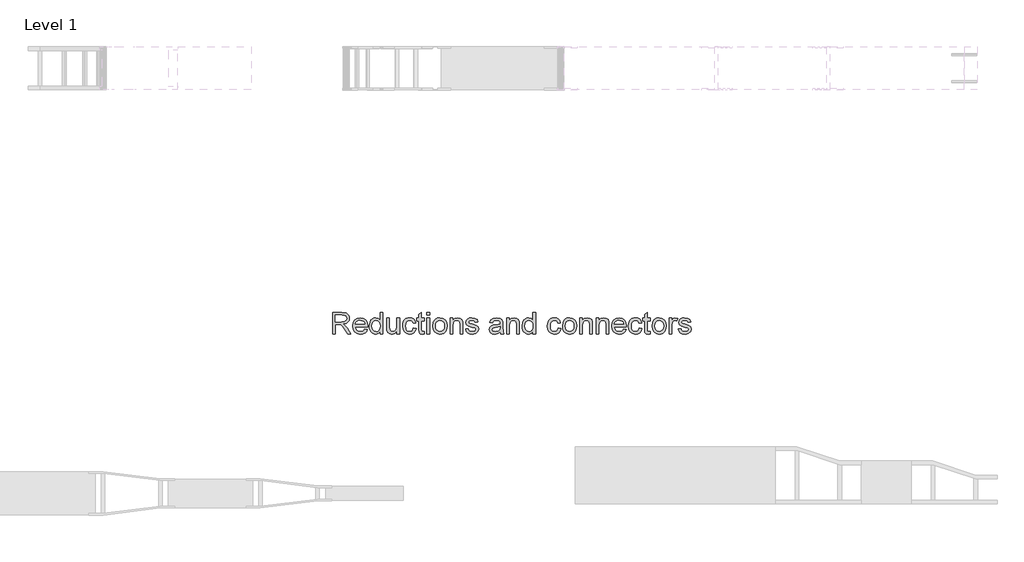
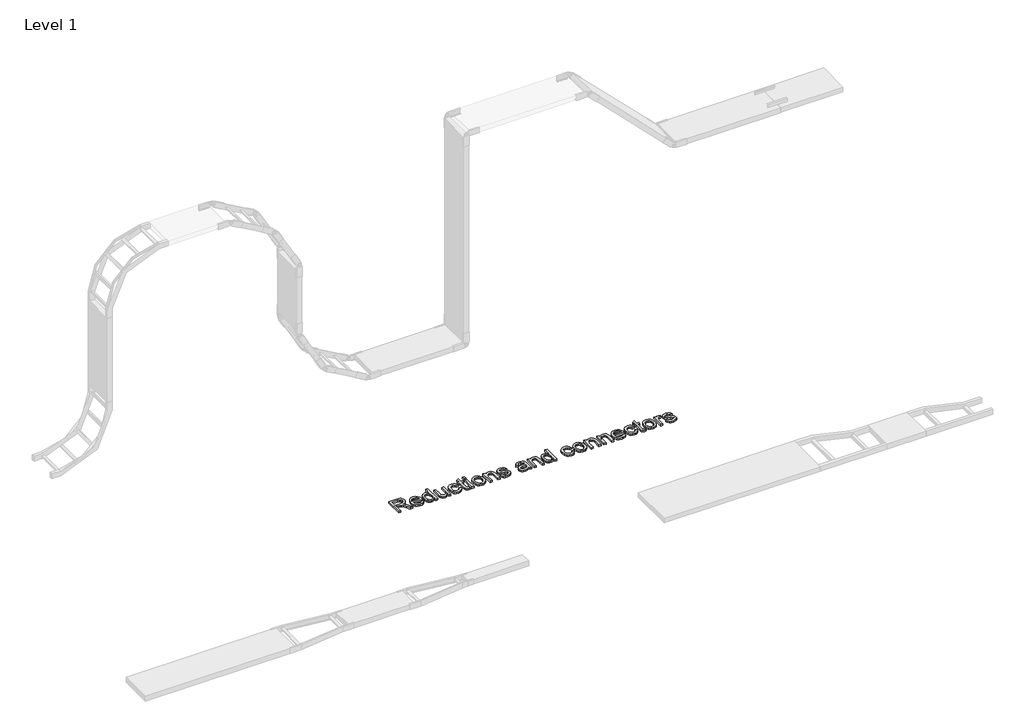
# One storey, part 45 of 106: 1 proxy.
"""IFC4 building model written with IfcOpenShell, lengths in millimetres."""

from ifc_helpers import new_model, si_unit, origin, origin_with_axes, place, context, project, spatial, polyline, outline, extrude, element, save

model = new_model("IFC4")

# Units and contexts
model_context = context("Model", 3, world=origin())
ifc_project = project(units=[si_unit("LENGTHUNIT", "METRE", prefix="MILLI")], contexts=[model_context])

# Site, building, storey
site = spatial("IfcSite", under=ifc_project)
building = spatial("IfcBuilding", under=site)
storey = spatial("IfcBuildingStorey", under=building, Name="Level 1", Elevation=0.0)

# Proxy
placement = place(None, origin())
element("IfcBuildingElementProxy", 1, Name="150mm Arial 2", ObjectType="150mm Arial 2", at=placement, inside=storey, context=model_context, shape_type="SweptSolid", body=[
    extrude(outline(polyline([(54568.5420892, 22747.8476348), (54568.5420892, 22898.5321), (54633.4732613, 22898.5321), (54663.6211908, 22894.467004), (54672.9010141, 22888.8384094), (54680.1023042, 22880.0828179), (54684.7238218, 22869.2257006), (54686.2643276, 22857.2925283), (54683.7121463, 22842.4484898), (54676.0556023, 22830.1428371), (54663.0647693, 22821.1205312), (54644.5097212, 22816.1265331), (54655.2150872, 22808.0699174), (54670.48219, 22788.6825362), (54695.6085303, 22747.8476348), (54673.7195516, 22747.8476348), (54654.1114412, 22779.0808162), (54639.9479844, 22799.7557843), (54629.9967765, 22809.5230513), (54621.0388499, 22813.1099007), (54610.1127546, 22813.7720883), (54587.3776473, 22813.7720883), (54587.3776473, 22747.8476348), (54568.5420892, 22747.8476348)]), holes=[polyline([(54587.3776473, 22832.6076465), (54629.536924, 22832.6076465), (54651.0396266, 22835.2747909), (54663.2533088, 22843.8096532), (54667.4287695, 22856.5935526), (54665.4376082, 22865.7814054), (54659.4641243, 22873.1850305), (54649.186421, 22878.068664), (54634.2826017, 22879.6965419), (54587.3776473, 22879.6965419), (54587.3776473, 22832.6076465)])]), origin_with_axes(), (0.0, 0.0, 1.0), 15.0),
    extrude(outline(polyline([(54794.3480578, 22780.8098615), (54812.815734, 22778.4554168), (54806.1616684, 22764.5402803), (54795.5436743, 22754.1384169), (54781.200875, 22747.6544967), (54763.3723938, 22745.49319), (54741.2718829, 22749.2225937), (54724.2665377, 22760.4108049), (54713.4232159, 22778.3312566), (54709.8087753, 22802.2573819), (54713.4600041, 22826.988249), (54724.4136905, 22845.4835163), (54741.1891095, 22857.0166168), (54762.305536, 22860.8609837), (54782.7643735, 22857.0258139), (54799.1121296, 22845.5203045), (54809.8312913, 22827.0618254), (54813.4043452, 22802.3677465), (54813.2939806, 22797.2909749), (54728.6443335, 22797.2909749), (54731.9046876, 22783.1918975), (54739.4784582, 22772.8268223), (54750.409152, 22766.4532667), (54763.7402758, 22764.3287482), (54782.207952, 22768.2650855), (54794.3480578, 22780.8098615)]), holes=[polyline([(54728.6443335, 22816.1265331), (54794.568787, 22816.1265331), (54792.0212042, 22826.0777411), (54787.0272061, 22833.1962577), (54776.0459285, 22839.8181336), (54762.2319596, 22842.0254255), (54749.5354323, 22840.2641905), (54739.0369998, 22834.9804853), (54731.7391407, 22826.7445272), (54728.6443335, 22816.1265331)])]), origin_with_axes(), (0.0, 0.0, 1.0), 15.0),
    extrude(outline(polyline([(54900.5188016, 22747.8476348), (54900.5188016, 22765.6163351), (54888.056799, 22750.5239763), (54870.8307246, 22745.49319), (54858.6538306, 22747.3142059), (54847.5070061, 22752.7772535), (54838.0708329, 22761.5006553), (54831.0258927, 22773.1027337), (54826.6388999, 22787.1144392), (54825.176569, 22803.0667223), (54830.5660402, 22833.0491049), (54837.2982807, 22844.9408904), (54846.7160598, 22853.6872848), (54858.1066061, 22859.067559), (54870.7571482, 22860.8609837), (54888.1211784, 22855.7290299), (54900.5188016, 22842.3933075), (54900.5188016, 22898.5321), (54919.3543598, 22898.5321), (54919.3543598, 22747.8476348), (54900.5188016, 22747.8476348)]), holes=[polyline([(54844.0121271, 22803.1402987), (54846.1366457, 22786.1027638), (54852.5102012, 22773.9856505), (54861.7716305, 22766.7429738), (54872.55977, 22764.3287482), (54883.343311, 22766.6326092), (54892.3702154, 22773.5441921), (54898.4816551, 22785.1922558), (54900.5188016, 22801.7055589), (54898.4448669, 22819.7593678), (54892.2230626, 22832.2765527), (54882.9662319, 22839.5882073), (54871.7872178, 22842.0254255), (54860.8887137, 22839.6847764), (54851.9583782, 22832.6628288), (54845.9986899, 22820.6008979), (54844.0121271, 22803.1402987)])]), origin_with_axes(), (0.0, 0.0, 1.0), 15.0),
    extrude(outline(polyline([(55018.2410401, 22747.8476348), (55018.2410401, 22766.8671339), (55003.4889721, 22750.836676), (54984.2487437, 22745.49319), (54966.5352256, 22749.2455864), (54954.3215434, 22758.6633654), (54948.711343, 22772.5325167), (54947.607697, 22790.0436996), (54947.607697, 22858.5065389), (54966.4432551, 22858.5065389), (54966.4432551, 22798.9096557), (54967.5836893, 22779.7062156), (54975.0332997, 22768.4306324), (54989.0679978, 22764.3287482), (55004.7949531, 22768.5226029), (55015.1876195, 22779.9453389), (55018.2410401, 22800.9330067), (55018.2410401, 22858.5065389), (55037.0765982, 22858.5065389), (55037.0765982, 22747.8476348), (55018.2410401, 22747.8476348)])), origin_with_axes(), (0.0, 0.0, 1.0), 15.0),
    extrude(outline(polyline([(55133.6088338, 22787.8731959), (55152.4443919, 22785.5187511), (55147.1928764, 22768.7663247), (55137.3244419, 22756.1065856), (55123.7679904, 22748.1465389), (55107.4524239, 22745.49319), (55087.4166507, 22749.1950026), (55071.7494763, 22760.3004403), (55061.6373199, 22778.3220596), (55058.2666011, 22802.7724167), (55059.7059394, 22819.5340401), (55064.0239544, 22834.0607803), (55071.2896238, 22845.7916175), (55081.5719255, 22854.1655314), (55093.8729797, 22859.1871206), (55107.1949065, 22860.8609837), (55123.1104013, 22858.5617212), (55135.8345198, 22851.6639338), (55144.9625918, 22840.5355035), (55150.0899471, 22825.5443122), (55131.254389, 22823.1898674), (55122.5171916, 22837.2981419), (55107.3420593, 22842.0254255), (55095.1697638, 22839.6985719), (55085.5082629, 22832.7180111), (55079.2036852, 22820.7066639), (55077.1021593, 22803.2874515), (55079.1576999, 22785.6337142), (55085.3243219, 22773.5809803), (55094.8110788, 22766.6418062), (55106.8270245, 22764.3287482), (55116.5804959, 22765.772685), (55124.5773308, 22770.1044955), (55130.3944648, 22777.4345442), (55133.6088338, 22787.8731959)])), origin_with_axes(), (0.0, 0.0, 1.0), 15.0),
    extrude(outline(polyline([(55208.9510664, 22763.556196), (55211.3055111, 22747.2958118), (55197.2156307, 22745.49319), (55181.4334931, 22748.620187), (55173.5608184, 22756.8239555), (55171.2799501, 22778.1978994), (55171.2799501, 22839.6709808), (55157.1532814, 22839.6709808), (55157.1532814, 22858.5065389), (55171.2799501, 22858.5065389), (55171.2799501, 22885.3987128), (55190.1155082, 22896.4719608), (55190.1155082, 22858.5065389), (55208.9510664, 22858.5065389), (55208.9510664, 22839.6709808), (55190.1155082, 22839.6709808), (55190.1155082, 22778.7497224), (55191.1087896, 22769.0376377), (55194.3277571, 22765.597941), (55200.7472979, 22764.3287482), (55208.9510664, 22763.556196)])), origin_with_axes(), (0.0, 0.0, 1.0), 15.0),
    extrude(outline(polyline([(55227.7866245, 22879.6965419), (55227.7866245, 22898.5321), (55246.6221827, 22898.5321), (55246.6221827, 22879.6965419), (55227.7866245, 22879.6965419)])), origin_with_axes(), (0.0, 0.0, 1.0), 15.0),
    extrude(outline(polyline([(55227.7866245, 22747.8476348), (55227.7866245, 22858.5065389), (55246.6221827, 22858.5065389), (55246.6221827, 22747.8476348), (55227.7866245, 22747.8476348)])), origin_with_axes(), (0.0, 0.0, 1.0), 15.0),
    extrude(outline(polyline([(55270.1666304, 22803.1770869), (55274.2409235, 22829.8577286), (55286.4638027, 22848.6105133), (55301.5653587, 22857.7983661), (55319.6467587, 22860.8609837), (55339.4342115, 22857.13158), (55355.2393417, 22845.9433688), (55365.5998184, 22828.179267), (55369.0533107, 22804.7221912), (55367.5266004, 22785.693495), (55362.9464695, 22771.2081415), (55355.4462754, 22760.3602211), (55345.1593751, 22752.2438246), (55332.9410943, 22747.1808487), (55319.6467587, 22745.49319), (55299.6201826, 22749.2087982), (55283.8334465, 22760.3556226), (55273.5833344, 22778.492205), (55270.1666304, 22803.1770869)]), holes=[polyline([(55289.0021885, 22803.2138751), (55291.1818893, 22786.1671431), (55297.7209918, 22774.0224387), (55307.5618352, 22766.7521708), (55319.6467587, 22764.3287482), (55331.6765, 22766.7659664), (55341.4989492, 22774.077621), (55348.0380517, 22786.3832738), (55350.2177525, 22803.8024862), (55348.0242561, 22820.3525775), (55341.4437669, 22832.331735), (55331.6075221, 22839.6020029), (55319.6467587, 22842.0254255), (55307.5618352, 22839.6112), (55297.7209918, 22832.3685232), (55291.1818893, 22820.25141), (55289.0021885, 22803.2138751)])]), origin_with_axes(), (0.0, 0.0, 1.0), 15.0),
    extrude(outline(polyline([(55390.2433136, 22747.8476348), (55390.2433136, 22858.5065389), (55409.0788717, 22858.5065389), (55409.0788717, 22843.0554951), (55423.4814519, 22856.4096116), (55443.1447445, 22860.8609837), (55460.931839, 22857.2741342), (55473.0719448, 22847.8563552), (55478.7189334, 22834.0055981), (55479.7122148, 22815.7954393), (55479.7122148, 22747.8476348), (55460.8766567, 22747.8476348), (55460.8766567, 22813.2570535), (55458.7061529, 22829.9221079), (55451.0358133, 22838.7328817), (55438.1047612, 22842.0254255), (55427.0728998, 22840.1768185), (55417.6689163, 22834.6309974), (55411.2263829, 22823.9164343), (55409.0788717, 22806.5616012), (55409.0788717, 22747.8476348), (55390.2433136, 22747.8476348)])), origin_with_axes(), (0.0, 0.0, 1.0), 15.0),
    extrude(outline(polyline([(55498.547773, 22780.8098615), (55517.3833311, 22783.1643063), (55520.3539782, 22775.1076906), (55526.1021344, 22769.1847905), (55546.0781267, 22764.3287482), (55565.2815669, 22768.7801203), (55571.5355608, 22779.227969), (55569.9628653, 22784.028829), (55565.2447787, 22787.6892549), (55545.8573975, 22793.060332), (55517.4936957, 22802.275776), (55505.1144666, 22813.0363243), (55500.9022177, 22828.2298507), (55504.2867321, 22842.2645488), (55513.5205702, 22852.988309), (55525.4951291, 22858.5617212), (55541.700331, 22860.8609837), (55564.6193793, 22857.1637696), (55579.1875063, 22847.1573794), (55585.6622294, 22830.2532017), (55566.8266713, 22827.8987569), (55559.7449429, 22838.2914233), (55543.171859, 22842.0254255), (55525.1456412, 22838.4569702), (55519.7377759, 22830.1428371), (55521.9818561, 22824.6613954), (55529.0084022, 22820.5043288), (55545.2319982, 22816.4944151), (55572.8783301, 22807.628459), (55585.7174117, 22797.5852805), (55590.371119, 22781.2145317), (55584.9080713, 22763.188314), (55569.1443278, 22750.1101091), (55545.8206093, 22745.49319), (55526.8287013, 22747.7188761), (55512.9687472, 22754.3959343), (55503.716515, 22765.4507882), (55498.547773, 22780.8098615)])), origin_with_axes(), (0.0, 0.0, 1.0), 15.0),
    extrude(outline(polyline([(55741.0555842, 22761.9743034), (55722.7902431, 22749.2087982), (55702.6119157, 22745.49319), (55686.8711648, 22747.7280731), (55675.2598894, 22754.4327225), (55668.099986, 22764.6138567), (55665.7133516, 22777.2781944), (55669.3185951, 22792.1774152), (55678.7915565, 22802.9931459), (55691.980126, 22809.1735634), (55708.2772984, 22812.0062547), (55740.9452196, 22818.4809779), (55741.0555842, 22822.6748326), (55739.7588002, 22831.0809362), (55735.8684481, 22836.580772), (55727.1680389, 22840.6642622), (55715.0463271, 22842.0254255), (55695.9900398, 22838.4017879), (55686.9033545, 22825.5443122), (55668.0677963, 22827.8987569), (55676.2163825, 22846.2928567), (55692.6239195, 22857.0717991), (55717.4743483, 22860.8609837), (55740.3014261, 22857.5132575), (55753.19569, 22849.107154), (55758.9714374, 22836.3232546), (55759.8911423, 22819.8421412), (55759.8911423, 22796.4080581), (55760.8476355, 22763.6849547), (55764.6000319, 22747.8476348), (55745.7644737, 22747.8476348), (55741.0555842, 22761.9743034)]), holes=[polyline([(55741.0555842, 22799.6454197), (55710.6685314, 22793.8696724), (55694.4633295, 22790.8162518), (55687.1240837, 22785.8498449), (55684.5489097, 22778.6025696), (55690.1591102, 22768.4122383), (55706.6218294, 22764.3287482), (55725.6781168, 22768.8353026), (55737.9653754, 22779.7430038), (55740.9452196, 22794.3111308), (55741.0555842, 22799.6454197)])]), origin_with_axes(), (0.0, 0.0, 1.0), 15.0),
    extrude(outline(polyline([(55785.7900348, 22747.8476348), (55785.7900348, 22858.5065389), (55804.625593, 22858.5065389), (55804.625593, 22843.0554951), (55819.0281731, 22856.4096116), (55838.6914657, 22860.8609837), (55856.4785602, 22857.2741342), (55868.618666, 22847.8563552), (55874.2656546, 22834.0055981), (55875.258936, 22815.7954393), (55875.258936, 22747.8476348), (55856.4233779, 22747.8476348), (55856.4233779, 22813.2570535), (55854.2528741, 22829.9221079), (55846.5825345, 22838.7328817), (55833.6514824, 22842.0254255), (55822.619621, 22840.1768185), (55813.2156375, 22834.6309974), (55806.7731041, 22823.9164343), (55804.625593, 22806.5616012), (55804.625593, 22747.8476348), (55785.7900348, 22747.8476348)])), origin_with_axes(), (0.0, 0.0, 1.0), 15.0),
    extrude(outline(polyline([(55969.4367268, 22747.8476348), (55969.4367268, 22765.6163351), (55956.9747242, 22750.5239763), (55939.7486498, 22745.49319), (55927.5717557, 22747.3142059), (55916.4249313, 22752.7772535), (55906.9887581, 22761.5006553), (55899.9438179, 22773.1027337), (55895.5568251, 22787.1144392), (55894.0944942, 22803.0667223), (55899.4839654, 22833.0491049), (55906.2162059, 22844.9408904), (55915.633985, 22853.6872848), (55927.0245313, 22859.067559), (55939.6750734, 22860.8609837), (55957.0391036, 22855.7290299), (55969.4367268, 22842.3933075), (55969.4367268, 22898.5321), (55988.2722849, 22898.5321), (55988.2722849, 22747.8476348), (55969.4367268, 22747.8476348)]), holes=[polyline([(55912.9300523, 22803.1402987), (55915.0545709, 22786.1027638), (55921.4281264, 22773.9856505), (55930.6895557, 22766.7429738), (55941.4776952, 22764.3287482), (55952.2612361, 22766.6326092), (55961.2881406, 22773.5441921), (55967.3995802, 22785.1922558), (55969.4367268, 22801.7055589), (55967.362792, 22819.7593678), (55961.1409878, 22832.2765527), (55951.8841571, 22839.5882073), (55940.705143, 22842.0254255), (55929.8066389, 22839.6847764), (55920.8763034, 22832.6628288), (55914.9166151, 22820.6008979), (55912.9300523, 22803.1402987)])]), origin_with_axes(), (0.0, 0.0, 1.0), 15.0),
    extrude(outline(polyline([(56146.0200845, 22787.8731959), (56164.8556426, 22785.5187511), (56159.6041272, 22768.7663247), (56149.7356926, 22756.1065856), (56136.1792411, 22748.1465389), (56119.8636746, 22745.49319), (56099.8279015, 22749.1950026), (56084.160727, 22760.3004403), (56074.0485706, 22778.3220596), (56070.6778519, 22802.7724167), (56072.1171902, 22819.5340401), (56076.4352051, 22834.0607803), (56083.7008745, 22845.7916175), (56093.9831763, 22854.1655314), (56106.2842305, 22859.1871206), (56119.6061572, 22860.8609837), (56135.521652, 22858.5617212), (56148.2457706, 22851.6639338), (56157.3738426, 22840.5355035), (56162.5011979, 22825.5443122), (56143.6656397, 22823.1898674), (56134.9284423, 22837.2981419), (56119.75331, 22842.0254255), (56107.5810145, 22839.6985719), (56097.9195136, 22832.7180111), (56091.6149359, 22820.7066639), (56089.51341, 22803.2874515), (56091.5689507, 22785.6337142), (56097.7355726, 22773.5809803), (56107.2223296, 22766.6418062), (56119.2382752, 22764.3287482), (56128.9917466, 22765.772685), (56136.9885815, 22770.1044955), (56142.8057155, 22777.4345442), (56146.0200845, 22787.8731959)])), origin_with_axes(), (0.0, 0.0, 1.0), 15.0),
    extrude(outline(polyline([(56176.6278665, 22803.1770869), (56180.7021596, 22829.8577286), (56192.9250389, 22848.6105133), (56208.0265948, 22857.7983661), (56226.1079948, 22860.8609837), (56245.8954476, 22857.13158), (56261.7005779, 22845.9433688), (56272.0610546, 22828.179267), (56275.5145468, 22804.7221912), (56273.9878365, 22785.693495), (56269.4077057, 22771.2081415), (56261.9075115, 22760.3602211), (56251.6206112, 22752.2438246), (56239.4023304, 22747.1808487), (56226.1079948, 22745.49319), (56206.0814187, 22749.2087982), (56190.2946826, 22760.3556226), (56180.0445705, 22778.492205), (56176.6278665, 22803.1770869)]), holes=[polyline([(56195.4634246, 22803.2138751), (56197.6431255, 22786.1671431), (56204.1822279, 22774.0224387), (56214.0230713, 22766.7521708), (56226.1079948, 22764.3287482), (56238.1377361, 22766.7659664), (56247.9601853, 22774.077621), (56254.4992878, 22786.3832738), (56256.6789886, 22803.8024862), (56254.4854922, 22820.3525775), (56247.905003, 22832.331735), (56238.0687582, 22839.6020029), (56226.1079948, 22842.0254255), (56214.0230713, 22839.6112), (56204.1822279, 22832.3685232), (56197.6431255, 22820.25141), (56195.4634246, 22803.2138751)])]), origin_with_axes(), (0.0, 0.0, 1.0), 15.0),
    extrude(outline(polyline([(56296.7045497, 22747.8476348), (56296.7045497, 22858.5065389), (56315.5401079, 22858.5065389), (56315.5401079, 22843.0554951), (56329.942688, 22856.4096116), (56349.6059806, 22860.8609837), (56367.3930751, 22857.2741342), (56379.5331809, 22847.8563552), (56385.1801695, 22834.0055981), (56386.1734509, 22815.7954393), (56386.1734509, 22747.8476348), (56367.3378928, 22747.8476348), (56367.3378928, 22813.2570535), (56365.167389, 22829.9221079), (56357.4970494, 22838.7328817), (56344.5659973, 22842.0254255), (56333.5341359, 22840.1768185), (56324.1301524, 22834.6309974), (56317.687619, 22823.9164343), (56315.5401079, 22806.5616012), (56315.5401079, 22747.8476348), (56296.7045497, 22747.8476348)])), origin_with_axes(), (0.0, 0.0, 1.0), 15.0),
    extrude(outline(polyline([(56412.0723434, 22747.8476348), (56412.0723434, 22858.5065389), (56430.9079015, 22858.5065389), (56430.9079015, 22843.0554951), (56445.3104817, 22856.4096116), (56464.9737743, 22860.8609837), (56482.7608688, 22857.2741342), (56494.9009746, 22847.8563552), (56500.5479632, 22834.0055981), (56501.5412446, 22815.7954393), (56501.5412446, 22747.8476348), (56482.7056865, 22747.8476348), (56482.7056865, 22813.2570535), (56480.5351827, 22829.9221079), (56472.8648431, 22838.7328817), (56459.933791, 22842.0254255), (56448.9019296, 22840.1768185), (56439.4979461, 22834.6309974), (56433.0554127, 22823.9164343), (56430.9079015, 22806.5616012), (56430.9079015, 22747.8476348), (56412.0723434, 22747.8476348)])), origin_with_axes(), (0.0, 0.0, 1.0), 15.0),
    extrude(outline(polyline([(56604.9160853, 22780.8098615), (56623.3837614, 22778.4554168), (56616.7296958, 22764.5402803), (56606.1117017, 22754.1384169), (56591.7689025, 22747.6544967), (56573.9404213, 22745.49319), (56551.8399104, 22749.2225937), (56534.8345652, 22760.4108049), (56523.9912434, 22778.3312566), (56520.3768028, 22802.2573819), (56524.0280316, 22826.988249), (56534.981718, 22845.4835163), (56551.757137, 22857.0166168), (56572.8735635, 22860.8609837), (56593.3324009, 22857.0258139), (56609.6801571, 22845.5203045), (56620.3993187, 22827.0618254), (56623.9723726, 22802.3677465), (56623.862008, 22797.2909749), (56539.2123609, 22797.2909749), (56542.4727151, 22783.1918975), (56550.0464857, 22772.8268223), (56560.9771795, 22766.4532667), (56574.3083033, 22764.3287482), (56592.7759794, 22768.2650855), (56604.9160853, 22780.8098615)]), holes=[polyline([(56539.2123609, 22816.1265331), (56605.1368145, 22816.1265331), (56602.5892316, 22826.0777411), (56597.5952336, 22833.1962577), (56586.613956, 22839.8181336), (56572.7999871, 22842.0254255), (56560.1034597, 22840.2641905), (56549.6050273, 22834.9804853), (56542.3071682, 22826.7445272), (56539.2123609, 22816.1265331)])]), origin_with_axes(), (0.0, 0.0, 1.0), 15.0),
    extrude(outline(polyline([(56713.4412738, 22787.8731959), (56732.276832, 22785.5187511), (56727.0253165, 22768.7663247), (56717.156882, 22756.1065856), (56703.6004305, 22748.1465389), (56687.284864, 22745.49319), (56667.2490908, 22749.1950026), (56651.5819164, 22760.3004403), (56641.46976, 22778.3220596), (56638.0990412, 22802.7724167), (56639.5383795, 22819.5340401), (56643.8563945, 22834.0607803), (56651.1220639, 22845.7916175), (56661.4043656, 22854.1655314), (56673.7054198, 22859.1871206), (56687.0273466, 22860.8609837), (56702.9428414, 22858.5617212), (56715.6669599, 22851.6639338), (56724.7950319, 22840.5355035), (56729.9223872, 22825.5443122), (56711.0868291, 22823.1898674), (56702.3496317, 22837.2981419), (56687.1744994, 22842.0254255), (56675.0022039, 22839.6985719), (56665.340703, 22832.7180111), (56659.0361253, 22820.7066639), (56656.9345994, 22803.2874515), (56658.99014, 22785.6337142), (56665.156762, 22773.5809803), (56674.6435189, 22766.6418062), (56686.6594646, 22764.3287482), (56696.412936, 22765.772685), (56704.4097709, 22770.1044955), (56710.2269049, 22777.4345442), (56713.4412738, 22787.8731959)])), origin_with_axes(), (0.0, 0.0, 1.0), 15.0),
    extrude(outline(polyline([(56788.7835065, 22763.556196), (56791.1379512, 22747.2958118), (56777.0480708, 22745.49319), (56761.2659332, 22748.620187), (56753.3932585, 22756.8239555), (56751.1123901, 22778.1978994), (56751.1123901, 22839.6709808), (56736.9857215, 22839.6709808), (56736.9857215, 22858.5065389), (56751.1123901, 22858.5065389), (56751.1123901, 22885.3987128), (56769.9479483, 22896.4719608), (56769.9479483, 22858.5065389), (56788.7835065, 22858.5065389), (56788.7835065, 22839.6709808), (56769.9479483, 22839.6709808), (56769.9479483, 22778.7497224), (56770.9412297, 22769.0376377), (56774.1601971, 22765.597941), (56780.579738, 22764.3287482), (56788.7835065, 22763.556196)])), origin_with_axes(), (0.0, 0.0, 1.0), 15.0),
    extrude(outline(polyline([(56802.9101751, 22803.1770869), (56806.9844682, 22829.8577286), (56819.2073475, 22848.6105133), (56834.3089034, 22857.7983661), (56852.3903034, 22860.8609837), (56872.1777562, 22857.13158), (56887.9828865, 22845.9433688), (56898.3433631, 22828.179267), (56901.7968554, 22804.7221912), (56900.2701451, 22785.693495), (56895.6900143, 22771.2081415), (56888.1898201, 22760.3602211), (56877.9029198, 22752.2438246), (56865.684639, 22747.1808487), (56852.3903034, 22745.49319), (56832.3637273, 22749.2087982), (56816.5769912, 22760.3556226), (56806.3268791, 22778.492205), (56802.9101751, 22803.1770869)]), holes=[polyline([(56821.7457332, 22803.2138751), (56823.925434, 22786.1671431), (56830.4645365, 22774.0224387), (56840.3053799, 22766.7521708), (56852.3903034, 22764.3287482), (56864.4200447, 22766.7659664), (56874.2424939, 22774.077621), (56880.7815964, 22786.3832738), (56882.9612972, 22803.8024862), (56880.7678008, 22820.3525775), (56874.1873116, 22832.331735), (56864.3510668, 22839.6020029), (56852.3903034, 22842.0254255), (56840.3053799, 22839.6112), (56830.4645365, 22832.3685232), (56823.925434, 22820.25141), (56821.7457332, 22803.2138751)])]), origin_with_axes(), (0.0, 0.0, 1.0), 15.0),
    extrude(outline(polyline([(56922.9868583, 22747.8476348), (56922.9868583, 22858.5065389), (56939.4679717, 22858.5065389), (56939.4679717, 22842.1357901), (56951.1666191, 22857.2189519), (56962.938843, 22860.8609837), (56981.8479775, 22855.0484482), (56975.5571954, 22838.1626646), (56962.3134436, 22842.0254255), (56951.6632598, 22838.3098174), (56944.875837, 22828.0091215), (56941.8224164, 22806.0097782), (56941.8224164, 22747.8476348), (56922.9868583, 22747.8476348)])), origin_with_axes(), (0.0, 0.0, 1.0), 15.0),
    extrude(outline(polyline([(56986.5568671, 22780.8098615), (57005.3924252, 22783.1643063), (57008.3630723, 22775.1076906), (57014.1112285, 22769.1847905), (57034.0872208, 22764.3287482), (57053.290661, 22768.7801203), (57059.5446549, 22779.227969), (57057.9719594, 22784.028829), (57053.2538728, 22787.6892549), (57033.8664916, 22793.060332), (57005.5027898, 22802.275776), (56993.1235607, 22813.0363243), (56988.9113118, 22828.2298507), (56992.2958262, 22842.2645488), (57001.5296643, 22852.988309), (57013.5042232, 22858.5617212), (57029.7094251, 22860.8609837), (57052.6284734, 22857.1637696), (57067.1966004, 22847.1573794), (57073.6713235, 22830.2532017), (57054.8357654, 22827.8987569), (57047.754037, 22838.2914233), (57031.1809531, 22842.0254255), (57013.1547353, 22838.4569702), (57007.74687, 22830.1428371), (57009.9909502, 22824.6613954), (57017.0174963, 22820.5043288), (57033.2410922, 22816.4944151), (57060.8874242, 22807.628459), (57073.7265058, 22797.5852805), (57078.3802131, 22781.2145317), (57072.9171654, 22763.188314), (57057.1534219, 22750.1101091), (57033.8297034, 22745.49319), (57014.8377954, 22747.7188761), (57000.9778413, 22754.3959343), (56991.7256091, 22765.4507882), (56986.5568671, 22780.8098615)])), origin_with_axes(), (0.0, 0.0, 1.0), 15.0),
])

save(model, "model.ifc")
